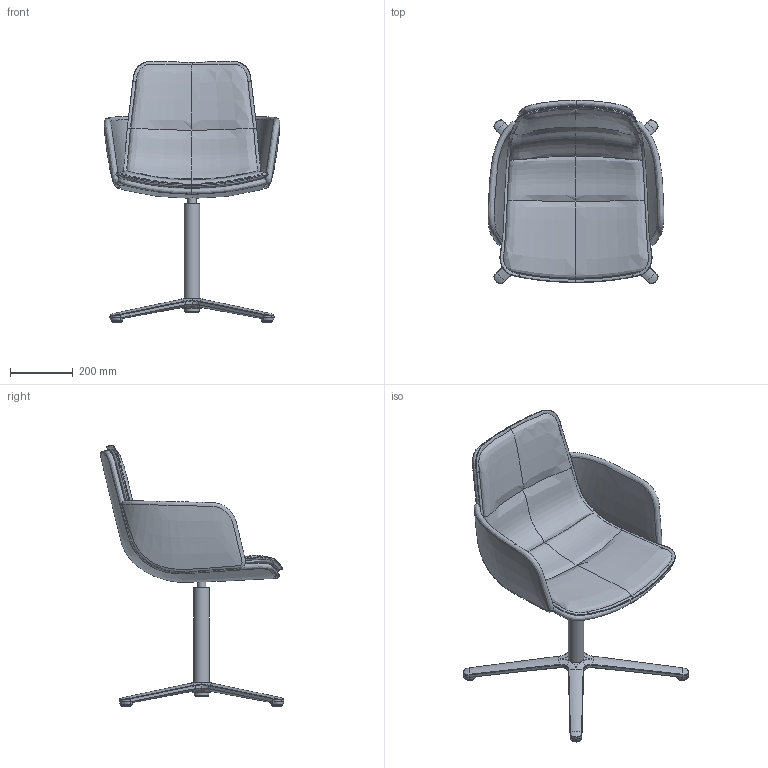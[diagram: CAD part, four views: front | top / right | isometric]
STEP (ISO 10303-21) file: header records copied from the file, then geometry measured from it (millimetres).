
FILE_DESCRIPTION(/* description */ (''),/* implementation_level */ '2;1');
FILE_NAME(/* name */ 'Edge ED 4202-01',/* time_stamp */ '2020-04-16T23:52:02+02:00',/* author */ (''),/* organization */ (''),/* preprocessor_version */ 'ST-DEVELOPER v16.5',/* originating_system */ '',/* authorisation */ '');
FILE_SCHEMA (('AUTOMOTIVE_DESIGN'));
Length unit declared in the file: millimetre
Products named in the file (1): Document
Bounding box: 562.08 x 585.58 x 835.52 mm (x, y, z)
Volume: 10341508.3 mm3; surface area: 1737892.2 mm2
Topology: 4 solids, 11 shells, 166 faces, 377 edges, 219 vertices
Faces by surface type: bspline 152, plane 14
Entity records: 16444 total; most frequent: CARTESIAN_POINT 14220, ORIENTED_EDGE 714, EDGE_CURVE 366, VERTEX_POINT 213, B_SPLINE_CURVE_WITH_KNOTS 201, ADVANCED_FACE 166, FACE_OUTER_BOUND 166, EDGE_LOOP 166
